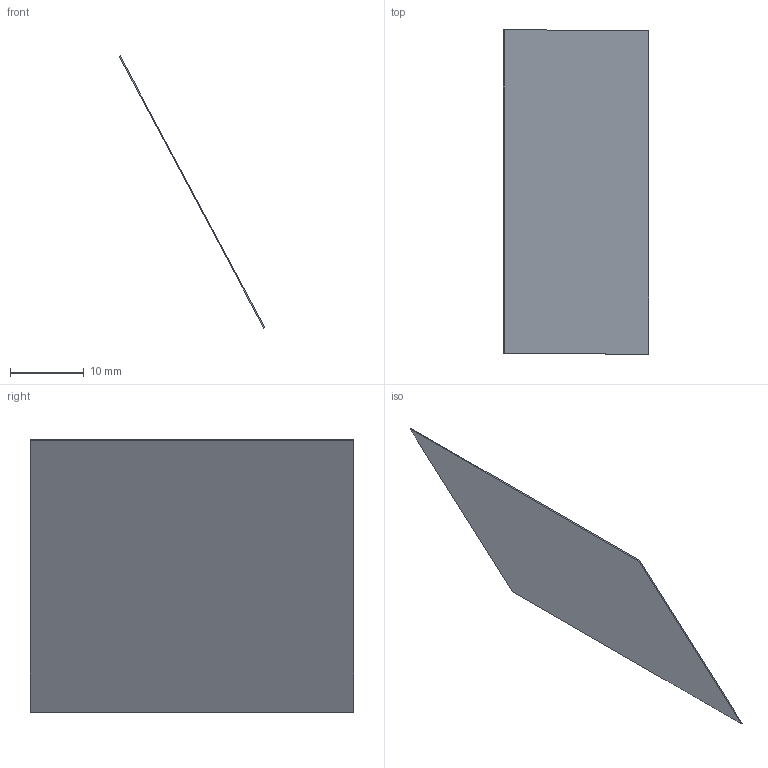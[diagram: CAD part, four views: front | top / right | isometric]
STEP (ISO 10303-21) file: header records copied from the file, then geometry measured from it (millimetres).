
FILE_DESCRIPTION(('Open CASCADE Model'),'2;1');
FILE_NAME('Open CASCADE Shape Model','2026-10-04T01:02:32',('Author'),( 'Open CASCADE'),'Open CASCADE STEP processor 8.0','Open CASCADE 8.0' ,'Unknown');
FILE_SCHEMA(('AUTOMOTIVE_DESIGN { 1 0 10303 214 1 1 1 1 }'));
Length unit declared in the file: millimetre
Products named in the file (1): Open CASCADE STEP translator 8.0 282
Bounding box: 19.8 x 44 x 36.99 mm (x, y, z)
Volume: 276.1 mm3; surface area: 3706.6 mm2
Topology: 1 solids, 1 shells, 6 faces, 12 edges, 8 vertices
Faces by surface type: plane 6
Entity records: 322 total; most frequent: CARTESIAN_POINT 51, DIRECTION 50, LINE 36, VECTOR 36, ORIENTED_EDGE 24, PCURVE 24, DEFINITIONAL_REPRESENTATION 24, EDGE_CURVE 12
